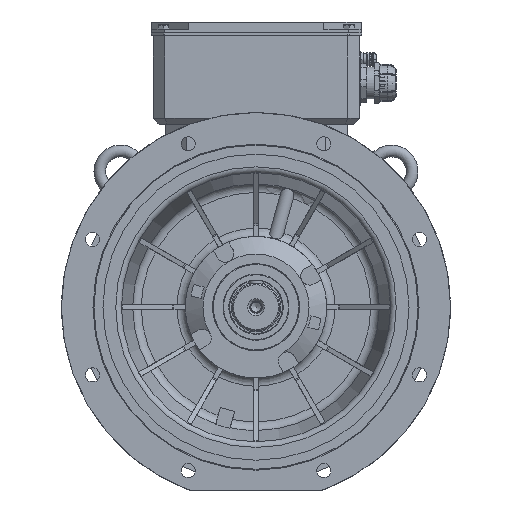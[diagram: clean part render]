
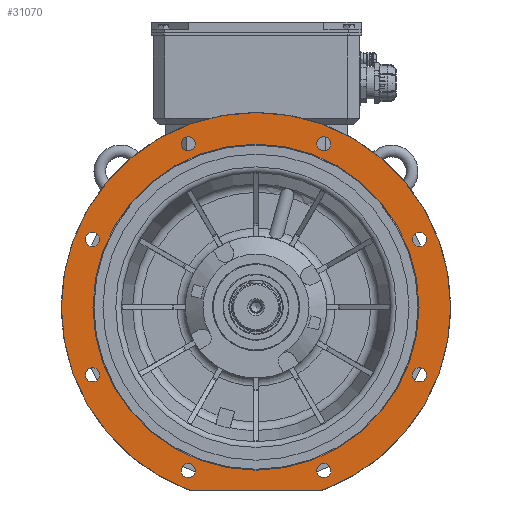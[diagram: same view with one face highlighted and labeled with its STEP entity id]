
A CAD part, front view. The second image highlights one B-rep face of the part: STEP entity #31070.
In plain terms, the highlighted planar face has unit normal (0, -1, 0).
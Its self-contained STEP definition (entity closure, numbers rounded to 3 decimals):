
#1868=CIRCLE('',#44495,3.);
#1869=CIRCLE('',#44497,3.);
#1870=CIRCLE('',#44499,330.);
#2239=CIRCLE('',#45413,12.);
#2241=CIRCLE('',#45416,12.);
#2243=CIRCLE('',#45419,12.);
#2245=CIRCLE('',#45422,12.);
#2247=CIRCLE('',#45425,12.);
#2249=CIRCLE('',#45428,12.);
#2251=CIRCLE('',#45431,12.);
#2253=CIRCLE('',#45434,12.);
#2362=CIRCLE('',#45735,276.4);
#7938=ORIENTED_EDGE('',*,*,#13158,.T.);
#7939=ORIENTED_EDGE('',*,*,#15026,.F.);
#7940=ORIENTED_EDGE('',*,*,#13155,.T.);
#7941=ORIENTED_EDGE('',*,*,#13161,.F.);
#7942=ORIENTED_EDGE('',*,*,#14810,.F.);
#7943=ORIENTED_EDGE('',*,*,#14812,.F.);
#7944=ORIENTED_EDGE('',*,*,#14814,.F.);
#7945=ORIENTED_EDGE('',*,*,#14816,.F.);
#7946=ORIENTED_EDGE('',*,*,#14818,.F.);
#7947=ORIENTED_EDGE('',*,*,#14820,.F.);
#7948=ORIENTED_EDGE('',*,*,#14822,.F.);
#7949=ORIENTED_EDGE('',*,*,#14824,.F.);
#7950=ORIENTED_EDGE('',*,*,#15294,.F.);
#13155=EDGE_CURVE('',#17796,#17797,#1868,.F.);
#13158=EDGE_CURVE('',#17798,#17799,#1869,.F.);
#13161=EDGE_CURVE('',#17798,#17797,#1870,.T.);
#14810=EDGE_CURVE('',#18934,#18934,#2239,.F.);
#14812=EDGE_CURVE('',#18936,#18936,#2241,.F.);
#14814=EDGE_CURVE('',#18938,#18938,#2243,.F.);
#14816=EDGE_CURVE('',#18940,#18940,#2245,.F.);
#14818=EDGE_CURVE('',#18942,#18942,#2247,.F.);
#14820=EDGE_CURVE('',#18944,#18944,#2249,.F.);
#14822=EDGE_CURVE('',#18946,#18946,#2251,.F.);
#14824=EDGE_CURVE('',#18948,#18948,#2253,.F.);
#15026=EDGE_CURVE('',#17796,#17799,#22076,.T.);
#15294=EDGE_CURVE('',#19241,#19241,#2362,.F.);
#17796=VERTEX_POINT('',#58059);
#17797=VERTEX_POINT('',#58060);
#17798=VERTEX_POINT('',#58065);
#17799=VERTEX_POINT('',#58066);
#18934=VERTEX_POINT('',#65596);
#18936=VERTEX_POINT('',#65601);
#18938=VERTEX_POINT('',#65606);
#18940=VERTEX_POINT('',#65611);
#18942=VERTEX_POINT('',#65616);
#18944=VERTEX_POINT('',#65621);
#18946=VERTEX_POINT('',#65626);
#18948=VERTEX_POINT('',#65631);
#19241=VERTEX_POINT('',#67050);
#22076=LINE('',#66117,#24408);
#24408=VECTOR('',#51578,1000.);
#26239=EDGE_LOOP('',(#7938,#7939,#7940,#7941));
#26240=EDGE_LOOP('',(#7942));
#26241=EDGE_LOOP('',(#7943));
#26242=EDGE_LOOP('',(#7944));
#26243=EDGE_LOOP('',(#7945));
#26244=EDGE_LOOP('',(#7946));
#26245=EDGE_LOOP('',(#7947));
#26246=EDGE_LOOP('',(#7948));
#26247=EDGE_LOOP('',(#7949));
#26248=EDGE_LOOP('',(#7950));
#28245=FACE_BOUND('',#26239,.T.);
#28246=FACE_BOUND('',#26240,.T.);
#28247=FACE_BOUND('',#26241,.T.);
#28248=FACE_BOUND('',#26242,.T.);
#28249=FACE_BOUND('',#26243,.T.);
#28250=FACE_BOUND('',#26244,.T.);
#28251=FACE_BOUND('',#26245,.T.);
#28252=FACE_BOUND('',#26246,.T.);
#28253=FACE_BOUND('',#26247,.T.);
#28254=FACE_BOUND('',#26248,.T.);
#29883=PLANE('',#45734);
#31070=ADVANCED_FACE('',(#28245,#28246,#28247,#28248,#28249,#28250,#28251,
#28252,#28253,#28254),#29883,.F.);
#44495=AXIS2_PLACEMENT_3D('',#58058,#48243,#48244);
#44497=AXIS2_PLACEMENT_3D('',#58064,#48249,#48250);
#44499=AXIS2_PLACEMENT_3D('',#58070,#48255,#48256);
#45413=AXIS2_PLACEMENT_3D('',#65595,#51178,#51179);
#45416=AXIS2_PLACEMENT_3D('',#65600,#51184,#51185);
#45419=AXIS2_PLACEMENT_3D('',#65605,#51190,#51191);
#45422=AXIS2_PLACEMENT_3D('',#65610,#51196,#51197);
#45425=AXIS2_PLACEMENT_3D('',#65615,#51202,#51203);
#45428=AXIS2_PLACEMENT_3D('',#65620,#51208,#51209);
#45431=AXIS2_PLACEMENT_3D('',#65625,#51214,#51215);
#45434=AXIS2_PLACEMENT_3D('',#65630,#51220,#51221);
#45734=AXIS2_PLACEMENT_3D('',#67048,#52059,#52060);
#45735=AXIS2_PLACEMENT_3D('',#67049,#52061,#52062);
#48243=DIRECTION('',(0.,1.,0.));
#48244=DIRECTION('',(0.,0.,1.));
#48249=DIRECTION('',(0.,1.,0.));
#48250=DIRECTION('',(0.,0.,1.));
#48255=DIRECTION('',(0.,1.,0.));
#48256=DIRECTION('',(0.,0.,1.));
#51178=DIRECTION('',(0.,1.,0.));
#51179=DIRECTION('',(0.,0.,1.));
#51184=DIRECTION('',(0.,1.,0.));
#51185=DIRECTION('',(0.,0.,1.));
#51190=DIRECTION('',(0.,1.,0.));
#51191=DIRECTION('',(0.,0.,1.));
#51196=DIRECTION('',(0.,1.,0.));
#51197=DIRECTION('',(0.,0.,1.));
#51202=DIRECTION('',(0.,1.,0.));
#51203=DIRECTION('',(0.,0.,1.));
#51208=DIRECTION('',(0.,1.,0.));
#51209=DIRECTION('',(0.,0.,1.));
#51214=DIRECTION('',(0.,1.,0.));
#51215=DIRECTION('',(0.,0.,1.));
#51220=DIRECTION('',(0.,1.,0.));
#51221=DIRECTION('',(0.,0.,1.));
#51578=DIRECTION('',(-1.,0.,0.));
#52059=DIRECTION('',(0.,1.,0.));
#52060=DIRECTION('',(1.,0.,0.));
#52061=DIRECTION('',(0.,1.,0.));
#52062=DIRECTION('',(0.,0.,1.));
#58058=CARTESIAN_POINT('',(112.606,-104.997,-307.));
#58059=CARTESIAN_POINT('',(112.606,-104.997,-310.));
#58060=CARTESIAN_POINT('',(113.639,-104.997,-309.817));
#58064=CARTESIAN_POINT('',(-112.606,-104.997,-307.));
#58065=CARTESIAN_POINT('',(-113.639,-104.997,-309.817));
#58066=CARTESIAN_POINT('',(-112.606,-104.997,-310.));
#58070=CARTESIAN_POINT('',(0.,-104.997,0.));
#65595=CARTESIAN_POINT('',(-277.164,-104.997,114.805));
#65596=CARTESIAN_POINT('',(-277.164,-104.997,126.805));
#65600=CARTESIAN_POINT('',(-277.164,-104.997,-114.805));
#65601=CARTESIAN_POINT('',(-277.164,-104.997,-102.805));
#65605=CARTESIAN_POINT('',(-114.805,-104.997,-277.164));
#65606=CARTESIAN_POINT('',(-114.805,-104.997,-265.164));
#65610=CARTESIAN_POINT('',(114.805,-104.997,-277.164));
#65611=CARTESIAN_POINT('',(114.805,-104.997,-265.164));
#65615=CARTESIAN_POINT('',(277.164,-104.997,-114.805));
#65616=CARTESIAN_POINT('',(277.164,-104.997,-102.805));
#65620=CARTESIAN_POINT('',(277.164,-104.997,114.805));
#65621=CARTESIAN_POINT('',(277.164,-104.997,126.805));
#65625=CARTESIAN_POINT('',(114.805,-104.997,277.164));
#65626=CARTESIAN_POINT('',(114.805,-104.997,289.164));
#65630=CARTESIAN_POINT('',(-114.805,-104.997,277.164));
#65631=CARTESIAN_POINT('',(-114.805,-104.997,289.164));
#66117=CARTESIAN_POINT('',(-113.137,-104.997,-310.));
#67048=CARTESIAN_POINT('',(0.,-104.997,276.4));
#67049=CARTESIAN_POINT('',(0.,-104.997,0.));
#67050=CARTESIAN_POINT('',(0.,-104.997,276.4));
